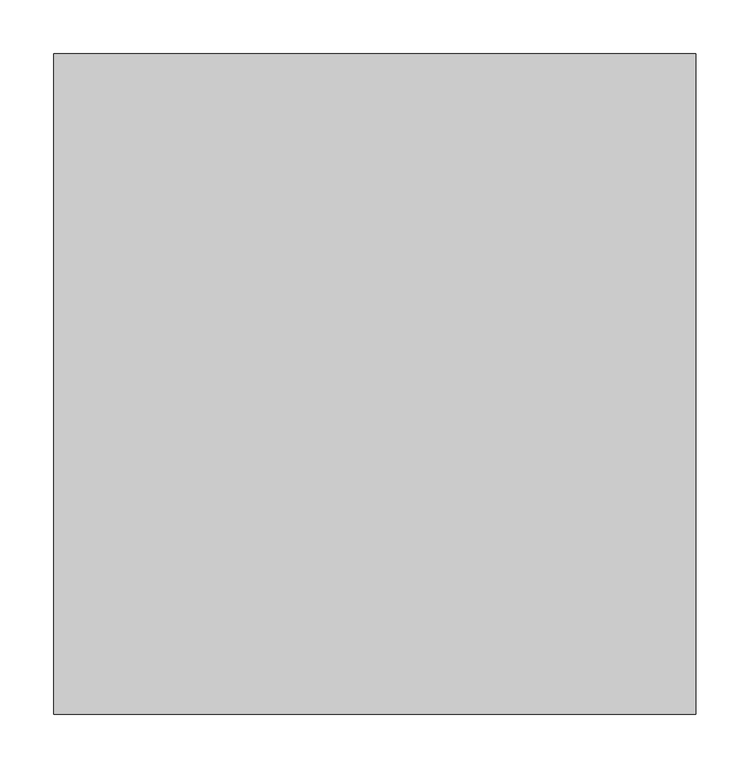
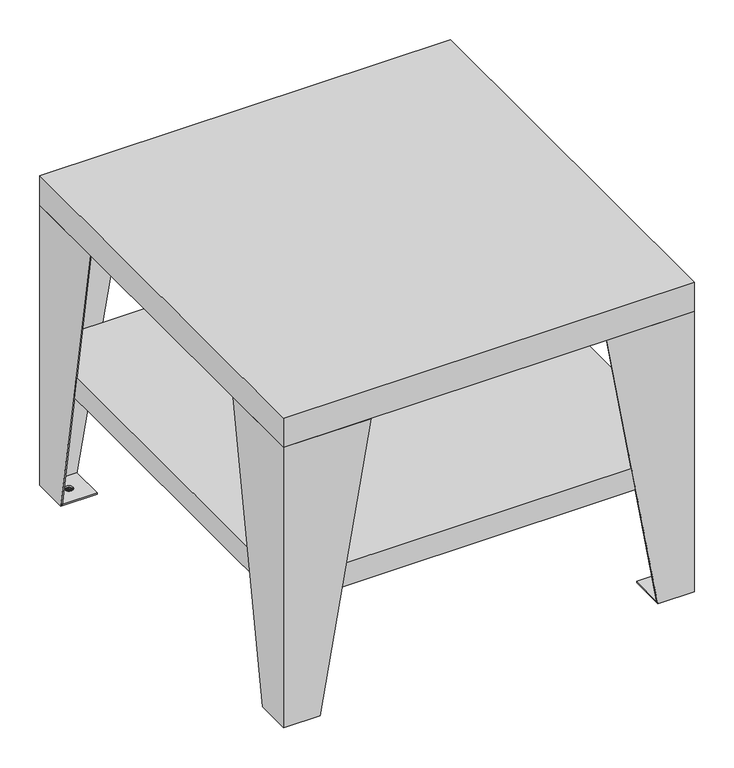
"""IFC4 building model written with IfcOpenShell, lengths in millimetres: proxy geometry, 11776600_D_APCL087_IG : 59590087_D_11776600_APCL087_IG."""

from ifc_helpers import new_model, si_unit, point, frame, frame_2d, origin, origin_with_axes, place, context, project, spatial, polyline, circle_curve, trimmed, segment, composite_curve, outline, extrude, faceted_brep, source, transform, mapped, element, save


def specialty_equipment_39cfdf50(model_context):
    return source(origin(), model_context, "Body", "SolidModel", [
        extrude(outline(composite_curve([segment(polyline([(-275.1685084, 593.0472117), (-271.3164745, 593.0472117), (-269.4477356, 592.7512326)]), True, "CONTINUOUS"), segment(trimmed(circle_curve(frame_2d((-270.4186229, 590.5839462)), 2.3748163), [point((-269.4477356, 592.7512326))], [point((-269.2989184, 588.4896648))], False, "CARTESIAN"), True, "CONTINUOUS"), segment(trimmed(circle_curve(frame_2d((-270.4582963, 585.9114122)), 2.8269318), [point((-269.2989184, 588.4896648))], [point((-269.7642408, 583.1710052))], False, "CARTESIAN"), True, "CONTINUOUS"), segment(polyline([(-269.7642408, 583.1710052), (-271.2676416, 583.0), (-275.1685084, 583.0), (-275.1685084, 593.0472117)]), True, "CONTINUOUS")], self_intersect=False), holes=[composite_curve([segment(polyline([(-273.913848, 591.7943432), (-273.913848, 588.9670675), (-271.6145851, 588.9670675), (-270.2782884, 589.0839783)]), True, "CONTINUOUS"), segment(trimmed(circle_curve(frame_2d((-270.5352206, 590.3816276)), 1.3228409), [point((-270.2782884, 589.0839783))], [point((-270.1776634, 591.6552291))], True, "CARTESIAN"), True, "CONTINUOUS"), segment(polyline([(-270.1776634, 591.6552291), (-271.7677441, 591.7943432), (-273.913848, 591.7943432)]), True, "CONTINUOUS")], self_intersect=False), composite_curve([segment(polyline([(-271.4580113, 587.7090207), (-273.9143742, 587.7090207), (-273.9143742, 584.2568535), (-271.3578582, 584.2568535), (-270.4244031, 584.3057738)]), True, "CONTINUOUS"), segment(trimmed(circle_curve(frame_2d((-270.5121799, 585.980655)), 1.6771797), [point((-270.4244031, 584.3057738))], [point((-269.9111324, 587.5464372))], True, "CARTESIAN"), True, "CONTINUOUS"), segment(polyline([(-269.9111324, 587.5464372), (-271.4580113, 587.7090207)]), True, "CONTINUOUS")], self_intersect=False)]), frame((0.0, 0.0, -1.0), z_axis=(0.0, 0.0, 1.0), x_axis=(1.0, 0.0, 0.0)), (0.0, 0.0, 1.0), 1.0),
        extrude(outline(composite_curve([segment(polyline([(272.1415369, 32.0472117), (274.0102757, 31.7512326)]), True, "CONTINUOUS"), segment(trimmed(circle_curve(frame_2d((273.0393885, 29.5839462)), 2.3748163), [point((274.0102757, 31.7512326))], [point((274.1590929, 27.4896648))], False, "CARTESIAN"), True, "CONTINUOUS"), segment(trimmed(circle_curve(frame_2d((272.999715, 24.9114122)), 2.8269318), [point((274.1590929, 27.4896648))], [point((273.6937705, 22.1710052))], False, "CARTESIAN"), True, "CONTINUOUS"), segment(polyline([(273.6937705, 22.1710052), (272.1903698, 22.0), (268.2895029, 22.0), (268.2895029, 32.0472117), (272.1415369, 32.0472117)]), True, "CONTINUOUS")], self_intersect=False), holes=[composite_curve([segment(polyline([(269.5441634, 27.9670675), (271.8434263, 27.9670675), (273.1797229, 28.0839783)]), True, "CONTINUOUS"), segment(trimmed(circle_curve(frame_2d((272.9227908, 29.3816276)), 1.3228409), [point((273.1797229, 28.0839783))], [point((273.2803479, 30.6552291))], True, "CARTESIAN"), True, "CONTINUOUS"), segment(polyline([(273.2803479, 30.6552291), (271.6902672, 30.7943432), (269.5441634, 30.7943432), (269.5441634, 27.9670675)]), True, "CONTINUOUS")], self_intersect=False), composite_curve([segment(polyline([(269.5436371, 26.7090207), (269.5436371, 23.2568535), (272.1001532, 23.2568535), (273.0336083, 23.3057738)]), True, "CONTINUOUS"), segment(trimmed(circle_curve(frame_2d((272.9458315, 24.980655)), 1.6771797), [point((273.0336083, 23.3057738))], [point((273.5468789, 26.5464372))], True, "CARTESIAN"), True, "CONTINUOUS"), segment(polyline([(273.5468789, 26.5464372), (272.0, 26.7090207), (269.5436371, 26.7090207)]), True, "CONTINUOUS")], self_intersect=False)]), frame((0.0, 0.0, -1.0), z_axis=(0.0, 0.0, 1.0), x_axis=(1.0, 0.0, 0.0)), (0.0, 0.0, 1.0), 1.0),
        extrude(outline(composite_curve([segment(polyline([(272.1415369, 593.0472117), (274.0102757, 592.7512326)]), True, "CONTINUOUS"), segment(trimmed(circle_curve(frame_2d((273.0393885, 590.5839462)), 2.3748163), [point((274.0102757, 592.7512326))], [point((274.1590929, 588.4896648))], False, "CARTESIAN"), True, "CONTINUOUS"), segment(trimmed(circle_curve(frame_2d((272.999715, 585.9114122)), 2.8269318), [point((274.1590929, 588.4896648))], [point((273.6937705, 583.1710052))], False, "CARTESIAN"), True, "CONTINUOUS"), segment(polyline([(273.6937705, 583.1710052), (272.1903698, 583.0), (268.2895029, 583.0), (268.2895029, 593.0472117), (272.1415369, 593.0472117)]), True, "CONTINUOUS")], self_intersect=False), holes=[composite_curve([segment(polyline([(273.2803479, 591.6552291), (271.6902672, 591.7943432), (269.5441634, 591.7943432), (269.5441634, 588.9670675), (271.8434263, 588.9670675), (273.1797229, 589.0839783)]), True, "CONTINUOUS"), segment(trimmed(circle_curve(frame_2d((272.9227908, 590.3816276)), 1.3228409), [point((273.1797229, 589.0839783))], [point((273.2803479, 591.6552291))], True, "CARTESIAN"), True, "CONTINUOUS")], self_intersect=False), composite_curve([segment(polyline([(272.0, 587.7090207), (269.5436371, 587.7090207), (269.5436371, 584.2568535), (272.1001532, 584.2568535), (273.0336083, 584.3057738)]), True, "CONTINUOUS"), segment(trimmed(circle_curve(frame_2d((272.9458315, 585.980655)), 1.6771797), [point((273.0336083, 584.3057738))], [point((273.5468789, 587.5464372))], True, "CARTESIAN"), True, "CONTINUOUS"), segment(polyline([(273.5468789, 587.5464372), (272.0, 587.7090207)]), True, "CONTINUOUS")], self_intersect=False)]), frame((0.0, 0.0, -1.0), z_axis=(0.0, 0.0, 1.0), x_axis=(1.0, 0.0, 0.0)), (0.0, 0.0, 1.0), 1.0),
        extrude(outline(composite_curve([segment(polyline([(-271.4419527, 32.0472117), (-269.5732138, 31.7512326)]), True, "CONTINUOUS"), segment(trimmed(circle_curve(frame_2d((-270.544101, 29.5839462)), 2.3748163), [point((-269.5732138, 31.7512326))], [point((-269.4243966, 27.4896648))], False, "CARTESIAN"), True, "CONTINUOUS"), segment(trimmed(circle_curve(frame_2d((-270.5837745, 24.9114122)), 2.8269318), [point((-269.4243966, 27.4896648))], [point((-269.889719, 22.1710052))], False, "CARTESIAN"), True, "CONTINUOUS"), segment(polyline([(-269.889719, 22.1710052), (-271.3931197, 22.0), (-275.2939866, 22.0), (-275.2939866, 32.0472117), (-271.4419527, 32.0472117)]), True, "CONTINUOUS")], self_intersect=False), holes=[composite_curve([segment(polyline([(-274.0393261, 30.7943432), (-274.0393261, 27.9670675), (-271.7400632, 27.9670675), (-270.4037666, 28.0839783)]), True, "CONTINUOUS"), segment(trimmed(circle_curve(frame_2d((-270.6606988, 29.3816276)), 1.3228409), [point((-270.4037666, 28.0839783))], [point((-270.3031416, 30.6552291))], True, "CARTESIAN"), True, "CONTINUOUS"), segment(polyline([(-270.3031416, 30.6552291), (-271.8932223, 30.7943432), (-274.0393261, 30.7943432)]), True, "CONTINUOUS")], self_intersect=False), composite_curve([segment(polyline([(-274.0398524, 23.2568535), (-271.4833364, 23.2568535), (-270.5498812, 23.3057738)]), True, "CONTINUOUS"), segment(trimmed(circle_curve(frame_2d((-270.637658, 24.980655)), 1.6771797), [point((-270.5498812, 23.3057738))], [point((-270.0366106, 26.5464372))], True, "CARTESIAN"), True, "CONTINUOUS"), segment(polyline([(-270.0366106, 26.5464372), (-271.5834895, 26.7090207), (-274.0398524, 26.7090207), (-274.0398524, 23.2568535)]), True, "CONTINUOUS")], self_intersect=False)]), frame((0.0, 0.0, -1.0), z_axis=(0.0, 0.0, 1.0), x_axis=(1.0, 0.0, 0.0)), (0.0, 0.0, 1.0), 1.0),
        faceted_brep([(299.0, 615.0, 476.0), (-299.0, 615.0, 476.0), (-299.0, 0.0, 476.0), (299.0, 0.0, 476.0), (299.0, 615.0, 431.0), (299.0, 0.0, 431.0), (-299.0, 0.0, 431.0), (-299.0, 615.0, 431.0), (297.0, 613.0, 431.0), (-297.0, 613.0, 431.0), (-297.0, 2.0, 431.0), (297.0, 2.0, 431.0), (297.0, 613.0, 475.0), (297.0, 2.0, 475.0), (-297.0, 2.0, 475.0), (-297.0, 613.0, 475.0)], [[[0, 1, 2, 3]], [[4, 5, 6, 7], [8, 9, 10, 11]], [[1, 0, 4, 7]], [[2, 1, 7, 6]], [[3, 2, 6, 5]], [[0, 3, 5, 4]], [[12, 13, 14, 15]], [[12, 15, 9, 8]], [[15, 14, 10, 9]], [[14, 13, 11, 10]], [[13, 12, 8, 11]]]),
        extrude(outline(polyline([(-246.0, 613.0), (-246.0, 562.0), (-297.0, 562.0), (-297.0, 613.0), (-246.0, 613.0)]), holes=[composite_curve([segment(trimmed(circle_curve(frame_2d((-272.0, 588.0)), 6.0), [point((-266.0, 588.0))], [point((-278.0, 588.0))], True, "CARTESIAN"), True, "CONTINUOUS"), segment(trimmed(circle_curve(frame_2d((-272.0, 588.0)), 6.0), [point((-278.0, 588.0))], [point((-266.0, 588.0))], True, "CARTESIAN"), True, "CONTINUOUS")], self_intersect=False)]), origin_with_axes(), (0.0, 0.0, 1.0), 2.0),
        extrude(outline(polyline([(297.0, 613.0), (297.0, 562.0), (246.0, 562.0), (246.0, 613.0), (297.0, 613.0)]), holes=[composite_curve([segment(trimmed(circle_curve(frame_2d((272.0, 588.0)), 6.0), [point((278.0, 588.0))], [point((266.0, 588.0))], True, "CARTESIAN"), True, "CONTINUOUS"), segment(trimmed(circle_curve(frame_2d((272.0, 588.0)), 6.0), [point((266.0, 588.0))], [point((278.0, 588.0))], True, "CARTESIAN"), True, "CONTINUOUS")], self_intersect=False)]), origin_with_axes(), (0.0, 0.0, 1.0), 2.0),
        extrude(outline(polyline([(-246.0, 53.0), (-246.0, 2.0), (-297.0, 2.0), (-297.0, 53.0), (-246.0, 53.0)]), holes=[composite_curve([segment(trimmed(circle_curve(frame_2d((-272.0, 27.0)), 6.0), [point((-266.0, 27.0))], [point((-278.0, 27.0))], True, "CARTESIAN"), True, "CONTINUOUS"), segment(trimmed(circle_curve(frame_2d((-272.0, 27.0)), 6.0), [point((-278.0, 27.0))], [point((-266.0, 27.0))], True, "CARTESIAN"), True, "CONTINUOUS")], self_intersect=False)]), origin_with_axes(), (0.0, 0.0, 1.0), 2.0),
        extrude(outline(polyline([(297.0, 53.0), (297.0, 2.0), (246.0, 2.0), (246.0, 53.0), (297.0, 53.0)]), holes=[composite_curve([segment(trimmed(circle_curve(frame_2d((272.0, 27.0)), 6.0), [point((278.0, 27.0))], [point((266.0, 27.0))], True, "CARTESIAN"), True, "CONTINUOUS"), segment(trimmed(circle_curve(frame_2d((272.0, 27.0)), 6.0), [point((266.0, 27.0))], [point((278.0, 27.0))], True, "CARTESIAN"), True, "CONTINUOUS")], self_intersect=False)]), origin_with_axes(), (0.0, 0.0, 1.0), 2.0),
        faceted_brep([(297.0, 613.0, 220.0), (-297.0, 613.0, 220.0), (-297.0, 2.0, 220.0), (297.0, 2.0, 220.0), (297.0, 613.0, 185.0), (297.0, 2.0, 185.0), (-297.0, 2.0, 185.0), (-297.0, 613.0, 185.0), (295.0, 611.0, 185.0), (-295.0, 611.0, 185.0), (-295.0, 4.0, 185.0), (295.0, 4.0, 185.0), (295.0, 611.0, 219.0), (295.0, 4.0, 219.0), (-295.0, 4.0, 219.0), (-295.0, 611.0, 219.0)], [[[0, 1, 2, 3]], [[4, 5, 6, 7], [8, 9, 10, 11]], [[1, 0, 4, 7]], [[2, 1, 7, 6]], [[3, 2, 6, 5]], [[0, 3, 5, 4]], [[12, 13, 14, 15]], [[12, 15, 9, 8]], [[15, 14, 10, 9]], [[14, 13, 11, 10]], [[13, 12, 8, 11]]]),
        faceted_brep([(172.0, 613.0, 431.0), (297.0, 613.0, 431.0), (297.0, 488.0, 431.0), (299.0, 488.0, 431.0), (299.0, 615.0, 431.0), (172.0, 615.0, 431.0), (246.0, 615.0, 0.0), (299.0, 615.0, 0.0), (299.0, 562.0, 0.0), (297.0, 562.0, 0.0), (297.0, 613.0, 0.0), (246.0, 613.0, 0.0)], [[[0, 1, 2, 3, 4, 5]], [[6, 7, 8, 9, 10, 11]], [[1, 0, 11, 10]], [[2, 1, 10, 9]], [[4, 3, 8, 7]], [[5, 4, 7, 6]], [[0, 5, 6, 11]], [[3, 2, 9, 8]]]),
        faceted_brep([(-297.0, 488.0, 431.0), (-297.0, 613.0, 431.0), (-172.0, 613.0, 431.0), (-172.0, 615.0, 431.0), (-299.0, 615.0, 431.0), (-299.0, 488.0, 431.0), (-299.0, 615.0, 0.0), (-246.0, 615.0, 0.0), (-246.0, 613.0, 0.0), (-297.0, 613.0, 0.0), (-297.0, 562.0, 0.0), (-299.0, 562.0, 0.0)], [[[0, 1, 2, 3, 4, 5]], [[6, 7, 8, 9, 10, 11]], [[1, 0, 10, 9]], [[2, 1, 9, 8]], [[4, 3, 7, 6]], [[5, 4, 6, 11]], [[3, 2, 8, 7]], [[0, 5, 11, 10]]]),
        faceted_brep([(297.0, 127.0, 431.0), (297.0, 2.0, 431.0), (172.0, 2.0, 431.0), (172.0, 0.0, 431.0), (299.0, 0.0, 431.0), (299.0, 127.0, 431.0), (299.0, 0.0, 0.0), (246.0, 0.0, 0.0), (246.0, 2.0, 0.0), (297.0, 2.0, 0.0), (297.0, 53.0, 0.0), (299.0, 53.0, 0.0)], [[[0, 1, 2, 3, 4, 5]], [[6, 7, 8, 9, 10, 11]], [[1, 0, 10, 9]], [[2, 1, 9, 8]], [[4, 3, 7, 6]], [[5, 4, 6, 11]], [[3, 2, 8, 7]], [[0, 5, 11, 10]]]),
        faceted_brep([(-172.0, 2.0, 431.0), (-297.0, 2.0, 431.0), (-297.0, 127.0, 431.0), (-299.0, 127.0, 431.0), (-299.0, 0.0, 431.0), (-172.0, 0.0, 431.0), (-246.0, 0.0, 0.0), (-299.0, 0.0, 0.0), (-299.0, 53.0, 0.0), (-297.0, 53.0, 0.0), (-297.0, 2.0, 0.0), (-246.0, 2.0, 0.0)], [[[0, 1, 2, 3, 4, 5]], [[6, 7, 8, 9, 10, 11]], [[1, 0, 11, 10]], [[2, 1, 10, 9]], [[4, 3, 8, 7]], [[5, 4, 7, 6]], [[0, 5, 6, 11]], [[3, 2, 9, 8]]]),
    ])


if __name__ == "__main__":
    model = new_model("IFC4")
    model_context = context("Model", 3, world=origin())
    ifc_project = project(units=[si_unit("LENGTHUNIT", "METRE", prefix="MILLI")], contexts=[model_context])
    site = spatial("IfcSite", under=ifc_project)
    building = spatial("IfcBuilding", under=site)
    placement = place(None, origin())
    specialty_equipment_shape = specialty_equipment_39cfdf50(model_context)
    element("IfcBuildingElementProxy", 1, Name="11776600_D_APCL087_IG : 59590087_D_11776600_APCL087_IG", ObjectType="11776600_D_APCL087_IG : 59590087_D_11776600_APCL087_IG", at=placement, inside=building, context=model_context, shape_type="MappedRepresentation", body=[
        mapped(specialty_equipment_shape, transform((0.0, 0.0, 0.0), x_axis=(1.0, 0.0, 0.0), y_axis=(0.0, 1.0, 0.0), z_axis=(0.0, 0.0, 1.0))),
    ])
    save(model, "model.ifc")
